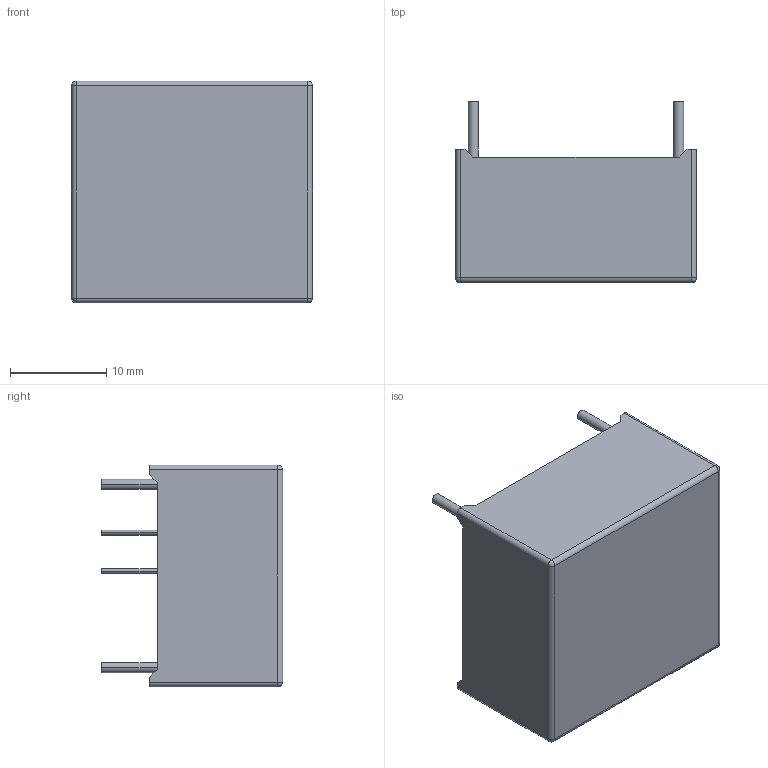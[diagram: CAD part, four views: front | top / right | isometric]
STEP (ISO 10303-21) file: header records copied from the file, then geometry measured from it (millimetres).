
FILE_DESCRIPTION((''),'2;1');
FILE_NAME('TFMOV20S621L-IT-5-001','2020-08-11T',('SET-01114'),(''),'PRO/ENGINEER BY PARAMETRIC TECHNOLOGY CORPORATION, 2012310','PRO/ENGINEER BY PARAMETRIC TECHNOLOGY CORPORATION, 2012310','');
FILE_SCHEMA(('CONFIG_CONTROL_DESIGN','SHAPE_APPEARANCE_LAYERS_GROUPS'));
Length unit declared in the file: millimetre
Products named in the file (1): TFMOV20S621L-IT-5-001
Bounding box: 25 x 18.8 x 23 mm (x, y, z)
Volume: 2194.9 mm3; surface area: 4391 mm2
Topology: 1 solids, 2 shells, 111 faces, 286 edges, 176 vertices
Faces by surface type: plane 61, cylinder 34, sphere 16
Entity records: 3356 total; most frequent: CARTESIAN_POINT 614, DIRECTION 576, ORIENTED_EDGE 540, EDGE_CURVE 270, AXIS2_PLACEMENT_3D 199, VECTOR 178, LINE 178, VERTEX_POINT 176
